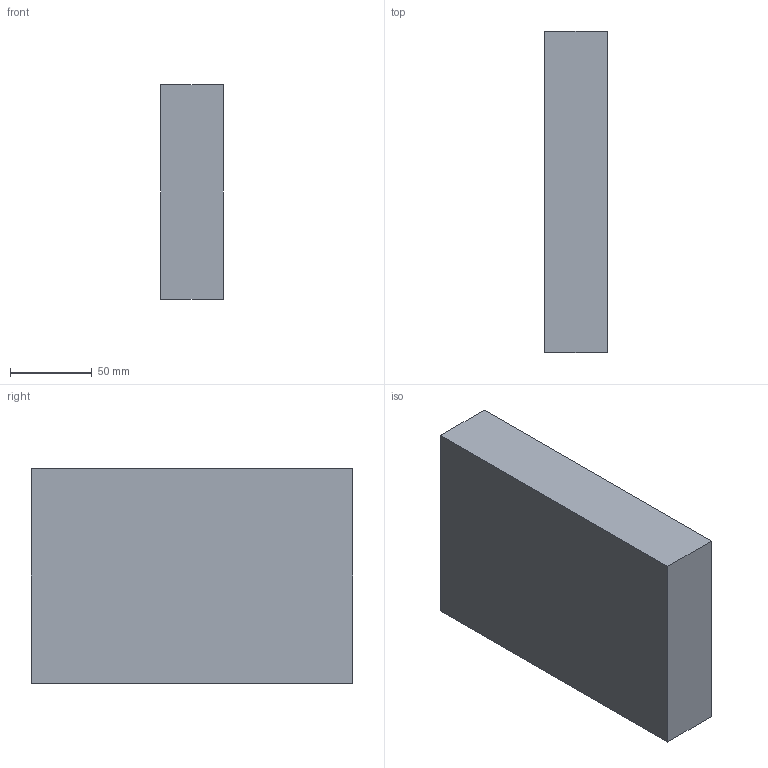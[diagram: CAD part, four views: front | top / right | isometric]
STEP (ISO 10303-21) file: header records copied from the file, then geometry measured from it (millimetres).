
FILE_DESCRIPTION(('FreeCAD Model'),'2;1');
FILE_NAME('/home/jwright/Documents/Mach_30/Shepard_v1.0_Mechanical/STEP_Files/Shepard_v1.0_Base_Front_TSBa03.step','2012-10-16T23:14:38',( 'FreeCAD'),('FreeCAD'),'Open CASCADE STEP processor 6.5','FreeCAD', 'Unknown');
FILE_SCHEMA(('AUTOMOTIVE_DESIGN_CC2 { 1 2 10303 214 -1 1 5 4 }'));
Length unit declared in the file: millimetre
Products named in the file (1): Box
Bounding box: 38.1 x 196.85 x 131.76 mm (x, y, z)
Volume: 988216.7 mm3; surface area: 76915.2 mm2
Topology: 1 solids, 1 shells, 6 faces, 12 edges, 8 vertices
Faces by surface type: plane 6
Entity records: 333 total; most frequent: CARTESIAN_POINT 51, DIRECTION 50, LINE 36, VECTOR 36, ORIENTED_EDGE 24, PCURVE 24, DEFINITIONAL_REPRESENTATION 24, EDGE_CURVE 12
